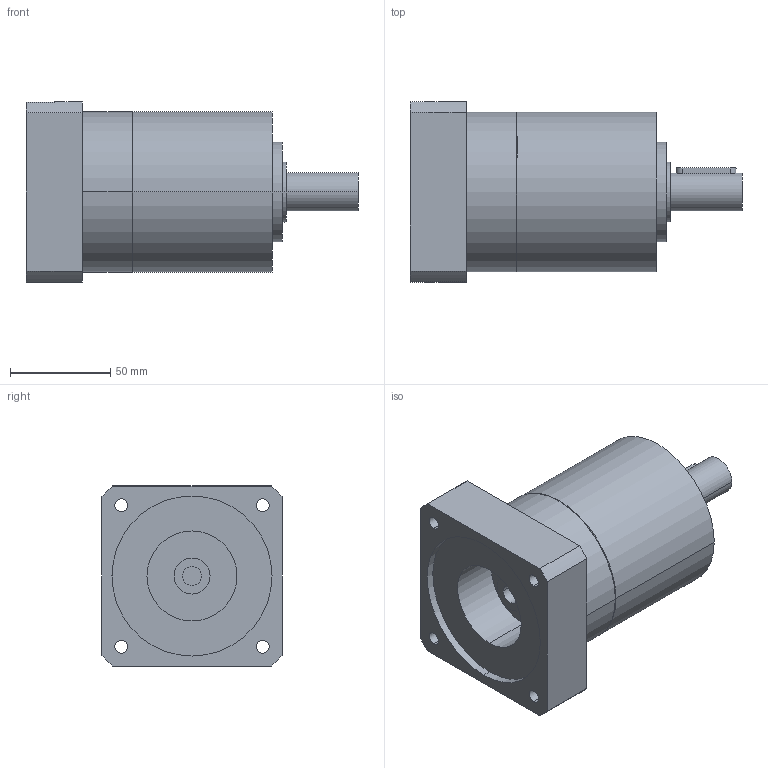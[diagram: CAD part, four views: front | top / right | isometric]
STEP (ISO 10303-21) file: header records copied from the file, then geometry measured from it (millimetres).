
FILE_DESCRIPTION(('CoCreate Modeling STEP Export'),'2;1');
FILE_NAME('GPR100_ig-3-4-5-6_19_B14_9.52_P28.stp','2014-08-26T10:09:56',(''),(''),'CoCreate Modeling STEP processor for AP214 (Solid Model)','CoCreate Modeling 16.00C 25-Feb-2009 (C) Parametric Technology GmbH','');
FILE_SCHEMA(('AUTOMOTIVE_DESIGN { 1 0 10303 214 1 1 1 1 }'));
Length unit declared in the file: millimetre
Products named in the file (2): GPR100_ig-3-4-5-6_19_B14_9.52_P28
Assembly tree (1 placements, depth 2):
  GPR100_ig-3-4-5-6_19_B14_9.52_P28
    GPR100_ig-3-4-5-6_19_B14_9.52_P28
Bounding box: 166 x 90 x 90 mm (x, y, z)
Volume: 660822.6 mm3; surface area: 62602.9 mm2
Topology: 1 solids, 1 shells, 70 faces, 185 edges, 129 vertices
Faces by surface type: cylinder 42, plane 22, cone 6
Entity records: 1924 total; most frequent: ORIENTED_EDGE 366, CARTESIAN_POINT 357, DIRECTION 262, EDGE_CURVE 183, VERTEX_POINT 129, AXIS2_PLACEMENT_3D 98, EDGE_LOOP 92, FACE_OUTER_BOUND 70
